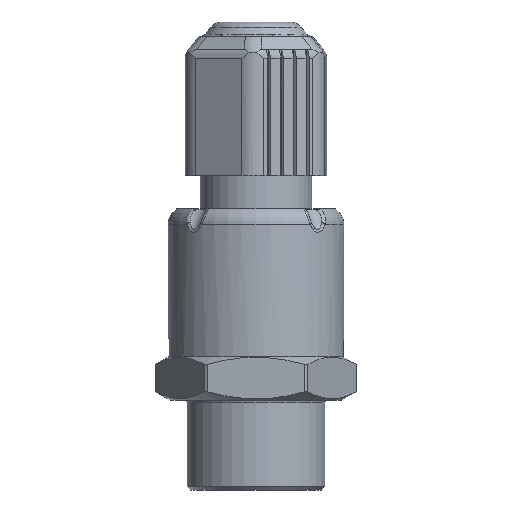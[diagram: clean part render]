
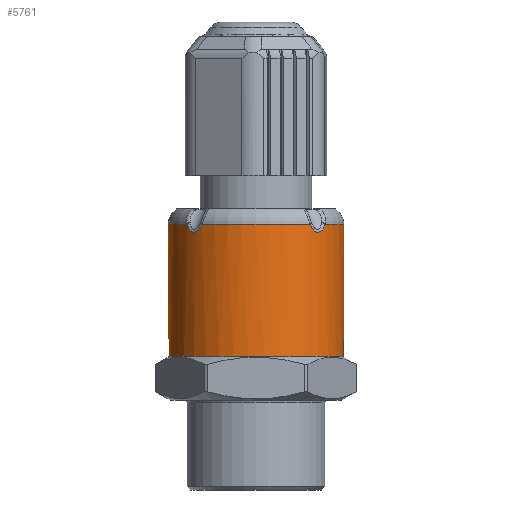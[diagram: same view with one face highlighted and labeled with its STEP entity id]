
A CAD part, front view. The second image highlights one B-rep face of the part: STEP entity #5761.
In plain terms, the highlighted cylindrical face has radius 12 mm (diameter 24 mm), a full revolution.
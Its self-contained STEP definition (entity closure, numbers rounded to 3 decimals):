
#169=B_SPLINE_CURVE_WITH_KNOTS('',3,(#10587,#10588,#10589,#10590,#10591,
#10592,#10593,#10594,#10595,#10596),.UNSPECIFIED.,.F.,.F.,(4,1,1,1,1,1,
1,4),(0.,0.053,0.106,0.159,0.213,
0.266,0.319,0.372),.UNSPECIFIED.);
#174=B_SPLINE_CURVE_WITH_KNOTS('',3,(#10698,#10699,#10700,#10701,#10702,
#10703,#10704,#10705,#10706,#10707,#10708,#10709,#10710,#10711,#10712,#10713,
#10714,#10715,#10716,#10717,#10718,#10719,#10720,#10721,#10722,#10723,#10724,
#10725),.UNSPECIFIED.,.F.,.F.,(4,3,3,3,3,3,3,3,3,4),(0.,0.029,
0.053,0.08,0.106,0.133,
0.157,0.159,0.177,0.186),
 .UNSPECIFIED.);
#175=B_SPLINE_CURVE_WITH_KNOTS('',3,(#10728,#10729,#10730,#10731,#10732,
#10733,#10734,#10735,#10736,#10737),.UNSPECIFIED.,.F.,.F.,(4,1,1,1,1,1,
1,4),(0.,0.053,0.106,0.159,0.213,
0.266,0.319,0.372),.UNSPECIFIED.);
#176=B_SPLINE_CURVE_WITH_KNOTS('',3,(#10738,#10739,#10740,#10741,#10742,
#10743,#10744,#10745,#10746,#10747),.UNSPECIFIED.,.F.,.F.,(4,1,1,1,1,1,
1,4),(0.,0.053,0.106,0.159,
0.213,0.266,0.319,0.372),
 .UNSPECIFIED.);
#177=B_SPLINE_CURVE_WITH_KNOTS('',3,(#10748,#10749,#10750,#10751,#10752,
#10753,#10754),.UNSPECIFIED.,.F.,.F.,(4,1,1,1,4),(0.186,0.213,
0.266,0.292,0.372),.UNSPECIFIED.);
#310=CYLINDRICAL_SURFACE('',#6261,12.);
#556=FACE_OUTER_BOUND('',#896,.T.);
#896=EDGE_LOOP('',(#4578,#4579,#4580,#4581,#4582,#4583,#4584,#4585,#4586,
#4587,#4588,#4589));
#1094=CIRCLE('',#6116,12.);
#1172=CIRCLE('',#6248,12.);
#1177=CIRCLE('',#6255,12.);
#1182=CIRCLE('',#6262,12.);
#1183=CIRCLE('',#6263,12.);
#1494=LINE('',#10755,#1967);
#1967=VECTOR('',#7407,12.);
#2407=VERTEX_POINT('',#9178);
#2520=VERTEX_POINT('',#9995);
#2523=VERTEX_POINT('',#10164);
#2524=VERTEX_POINT('',#10173);
#2529=VERTEX_POINT('',#10398);
#2530=VERTEX_POINT('',#10407);
#2531=VERTEX_POINT('',#10440);
#2534=VERTEX_POINT('',#10517);
#2537=VERTEX_POINT('',#10696);
#2538=VERTEX_POINT('',#10697);
#3078=EDGE_CURVE('',#2407,#2407,#1094,.T.);
#3244=EDGE_CURVE('',#2523,#2524,#1172,.T.);
#3256=EDGE_CURVE('',#2529,#2530,#1177,.T.);
#3263=EDGE_CURVE('',#2531,#2534,#169,.T.);
#3269=EDGE_CURVE('',#2537,#2538,#174,.T.);
#3270=EDGE_CURVE('',#2537,#2534,#1182,.T.);
#3271=EDGE_CURVE('',#2531,#2520,#1183,.T.);
#3272=EDGE_CURVE('',#2523,#2520,#175,.T.);
#3273=EDGE_CURVE('',#2529,#2524,#176,.T.);
#3274=EDGE_CURVE('',#2538,#2530,#177,.T.);
#3275=EDGE_CURVE('',#2538,#2407,#1494,.T.);
#4578=ORIENTED_EDGE('',*,*,#3269,.F.);
#4579=ORIENTED_EDGE('',*,*,#3270,.T.);
#4580=ORIENTED_EDGE('',*,*,#3263,.F.);
#4581=ORIENTED_EDGE('',*,*,#3271,.T.);
#4582=ORIENTED_EDGE('',*,*,#3272,.F.);
#4583=ORIENTED_EDGE('',*,*,#3244,.T.);
#4584=ORIENTED_EDGE('',*,*,#3273,.F.);
#4585=ORIENTED_EDGE('',*,*,#3256,.T.);
#4586=ORIENTED_EDGE('',*,*,#3274,.F.);
#4587=ORIENTED_EDGE('',*,*,#3275,.T.);
#4588=ORIENTED_EDGE('',*,*,#3078,.T.);
#4589=ORIENTED_EDGE('',*,*,#3275,.F.);
#5761=ADVANCED_FACE('',(#556),#310,.T.);
#6116=AXIS2_PLACEMENT_3D('',#9179,#7072,#7073);
#6248=AXIS2_PLACEMENT_3D('',#10180,#7375,#7376);
#6255=AXIS2_PLACEMENT_3D('',#10414,#7389,#7390);
#6261=AXIS2_PLACEMENT_3D('',#10695,#7401,#7402);
#6262=AXIS2_PLACEMENT_3D('',#10726,#7403,#7404);
#6263=AXIS2_PLACEMENT_3D('',#10727,#7405,#7406);
#7072=DIRECTION('center_axis',(0.,0.,1.));
#7073=DIRECTION('ref_axis',(0.707,-0.707,0.));
#7375=DIRECTION('center_axis',(0.,0.,-1.));
#7376=DIRECTION('ref_axis',(0.707,-0.707,0.));
#7389=DIRECTION('center_axis',(0.,0.,-1.));
#7390=DIRECTION('ref_axis',(0.707,-0.707,0.));
#7401=DIRECTION('center_axis',(0.,0.,1.));
#7402=DIRECTION('ref_axis',(0.707,-0.707,0.));
#7403=DIRECTION('center_axis',(0.,0.,-1.));
#7404=DIRECTION('ref_axis',(0.707,-0.707,0.));
#7405=DIRECTION('center_axis',(0.,0.,-1.));
#7406=DIRECTION('ref_axis',(0.707,-0.707,0.));
#7407=DIRECTION('',(0.,0.,-1.));
#9178=CARTESIAN_POINT('',(-8.485,8.485,-1.));
#9179=CARTESIAN_POINT('Origin',(0.,0.,-1.));
#9995=CARTESIAN_POINT('',(9.481,-7.356,17.005));
#10164=CARTESIAN_POINT('',(7.356,-9.481,17.005));
#10173=CARTESIAN_POINT('',(-7.356,-9.481,17.005));
#10180=CARTESIAN_POINT('Origin',(0.,0.,17.005));
#10398=CARTESIAN_POINT('',(-9.481,-7.356,17.005));
#10407=CARTESIAN_POINT('',(-9.481,7.356,17.005));
#10414=CARTESIAN_POINT('Origin',(0.,0.,17.005));
#10440=CARTESIAN_POINT('',(9.481,7.356,17.005));
#10517=CARTESIAN_POINT('',(7.356,9.481,17.005));
#10587=CARTESIAN_POINT('Ctrl Pts',(9.481,7.356,17.005));
#10588=CARTESIAN_POINT('Ctrl Pts',(9.421,7.433,16.853));
#10589=CARTESIAN_POINT('Ctrl Pts',(9.289,7.6,16.56));
#10590=CARTESIAN_POINT('Ctrl Pts',(9.032,7.905,16.18));
#10591=CARTESIAN_POINT('Ctrl Pts',(8.693,8.278,15.919));
#10592=CARTESIAN_POINT('Ctrl Pts',(8.279,8.692,15.92));
#10593=CARTESIAN_POINT('Ctrl Pts',(7.905,9.032,16.181));
#10594=CARTESIAN_POINT('Ctrl Pts',(7.6,9.288,16.56));
#10595=CARTESIAN_POINT('Ctrl Pts',(7.433,9.421,16.853));
#10596=CARTESIAN_POINT('Ctrl Pts',(7.356,9.481,17.005));
#10695=CARTESIAN_POINT('Origin',(0.,0.,-1.));
#10696=CARTESIAN_POINT('',(-7.356,9.481,17.005));
#10697=CARTESIAN_POINT('',(-8.485,8.485,15.929));
#10698=CARTESIAN_POINT('Ctrl Pts',(-7.356,9.481,17.005));
#10699=CARTESIAN_POINT('Ctrl Pts',(-7.398,9.449,16.923));
#10700=CARTESIAN_POINT('Ctrl Pts',(-7.441,9.415,16.843));
#10701=CARTESIAN_POINT('Ctrl Pts',(-7.487,9.378,16.765));
#10702=CARTESIAN_POINT('Ctrl Pts',(-7.526,9.347,16.698));
#10703=CARTESIAN_POINT('Ctrl Pts',(-7.566,9.314,16.633));
#10704=CARTESIAN_POINT('Ctrl Pts',(-7.609,9.279,16.57));
#10705=CARTESIAN_POINT('Ctrl Pts',(-7.655,9.241,16.502));
#10706=CARTESIAN_POINT('Ctrl Pts',(-7.704,9.201,16.436));
#10707=CARTESIAN_POINT('Ctrl Pts',(-7.755,9.158,16.373));
#10708=CARTESIAN_POINT('Ctrl Pts',(-7.806,9.114,16.311));
#10709=CARTESIAN_POINT('Ctrl Pts',(-7.86,9.068,16.253));
#10710=CARTESIAN_POINT('Ctrl Pts',(-7.916,9.019,16.2));
#10711=CARTESIAN_POINT('Ctrl Pts',(-7.973,8.969,16.146));
#10712=CARTESIAN_POINT('Ctrl Pts',(-8.032,8.916,16.098));
#10713=CARTESIAN_POINT('Ctrl Pts',(-8.094,8.86,16.058));
#10714=CARTESIAN_POINT('Ctrl Pts',(-8.149,8.809,16.021));
#10715=CARTESIAN_POINT('Ctrl Pts',(-8.207,8.756,15.991));
#10716=CARTESIAN_POINT('Ctrl Pts',(-8.265,8.7,15.969));
#10717=CARTESIAN_POINT('Ctrl Pts',(-8.272,8.693,15.966));
#10718=CARTESIAN_POINT('Ctrl Pts',(-8.279,8.687,15.964));
#10719=CARTESIAN_POINT('Ctrl Pts',(-8.285,8.681,15.962));
#10720=CARTESIAN_POINT('Ctrl Pts',(-8.328,8.64,15.947));
#10721=CARTESIAN_POINT('Ctrl Pts',(-8.372,8.597,15.938));
#10722=CARTESIAN_POINT('Ctrl Pts',(-8.415,8.555,15.933));
#10723=CARTESIAN_POINT('Ctrl Pts',(-8.439,8.532,15.93));
#10724=CARTESIAN_POINT('Ctrl Pts',(-8.462,8.509,15.929));
#10725=CARTESIAN_POINT('Ctrl Pts',(-8.485,8.485,15.929));
#10726=CARTESIAN_POINT('Origin',(0.,0.,17.005));
#10727=CARTESIAN_POINT('Origin',(0.,0.,17.005));
#10728=CARTESIAN_POINT('Ctrl Pts',(7.356,-9.481,17.005));
#10729=CARTESIAN_POINT('Ctrl Pts',(7.433,-9.421,16.853));
#10730=CARTESIAN_POINT('Ctrl Pts',(7.6,-9.289,16.56));
#10731=CARTESIAN_POINT('Ctrl Pts',(7.905,-9.032,16.18));
#10732=CARTESIAN_POINT('Ctrl Pts',(8.278,-8.693,15.919));
#10733=CARTESIAN_POINT('Ctrl Pts',(8.692,-8.279,15.92));
#10734=CARTESIAN_POINT('Ctrl Pts',(9.032,-7.905,16.181));
#10735=CARTESIAN_POINT('Ctrl Pts',(9.288,-7.6,16.56));
#10736=CARTESIAN_POINT('Ctrl Pts',(9.421,-7.433,16.853));
#10737=CARTESIAN_POINT('Ctrl Pts',(9.481,-7.356,17.005));
#10738=CARTESIAN_POINT('Ctrl Pts',(-9.481,-7.356,17.005));
#10739=CARTESIAN_POINT('Ctrl Pts',(-9.421,-7.433,
16.853));
#10740=CARTESIAN_POINT('Ctrl Pts',(-9.289,-7.6,
16.56));
#10741=CARTESIAN_POINT('Ctrl Pts',(-9.032,-7.905,16.18));
#10742=CARTESIAN_POINT('Ctrl Pts',(-8.693,-8.278,
15.919));
#10743=CARTESIAN_POINT('Ctrl Pts',(-8.279,-8.692,15.92));
#10744=CARTESIAN_POINT('Ctrl Pts',(-7.905,-9.032,
16.181));
#10745=CARTESIAN_POINT('Ctrl Pts',(-7.6,-9.288,16.56));
#10746=CARTESIAN_POINT('Ctrl Pts',(-7.433,-9.421,
16.853));
#10747=CARTESIAN_POINT('Ctrl Pts',(-7.356,-9.481,
17.005));
#10748=CARTESIAN_POINT('Ctrl Pts',(-8.485,8.485,15.929));
#10749=CARTESIAN_POINT('Ctrl Pts',(-8.552,8.419,15.929));
#10750=CARTESIAN_POINT('Ctrl Pts',(-8.749,8.217,15.963));
#10751=CARTESIAN_POINT('Ctrl Pts',(-8.976,7.967,16.137));
#10752=CARTESIAN_POINT('Ctrl Pts',(-9.252,7.646,16.487));
#10753=CARTESIAN_POINT('Ctrl Pts',(-9.392,7.471,16.777));
#10754=CARTESIAN_POINT('Ctrl Pts',(-9.481,7.356,17.005));
#10755=CARTESIAN_POINT('',(-8.485,8.485,-1.));
